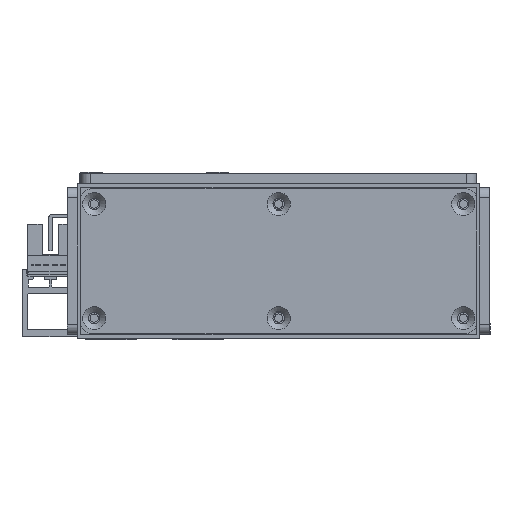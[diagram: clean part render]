
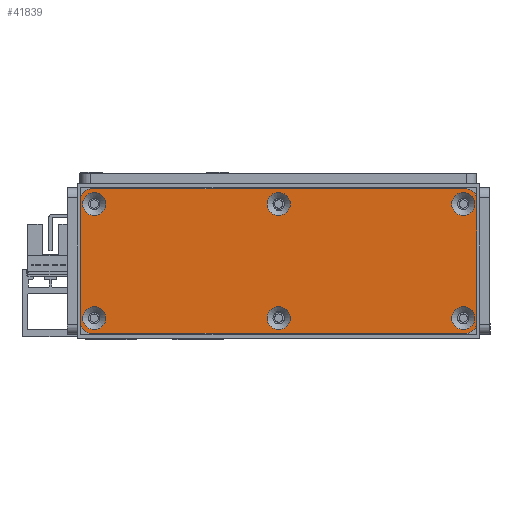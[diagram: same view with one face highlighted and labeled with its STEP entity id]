
A CAD part, front view. The second image highlights one B-rep face of the part: STEP entity #41839.
In plain terms, the highlighted planar face has unit normal (0, -1, 0) as drawn and (0, 0, 1) by its records, which use the part's own axes.
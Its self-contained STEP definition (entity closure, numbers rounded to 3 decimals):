
#699=FACE_BOUND('',#7500,.T.);
#700=FACE_BOUND('',#7501,.T.);
#701=FACE_BOUND('',#7502,.T.);
#702=FACE_BOUND('',#7503,.T.);
#703=FACE_BOUND('',#7504,.T.);
#704=FACE_BOUND('',#7505,.T.);
#2564=PLANE('',#45167);
#5049=FACE_OUTER_BOUND('',#7499,.T.);
#7499=EDGE_LOOP('',(#33724,#33725,#33726,#33727,#33728,#33729,#33730,#33731));
#7500=EDGE_LOOP('',(#33732));
#7501=EDGE_LOOP('',(#33733));
#7502=EDGE_LOOP('',(#33734));
#7503=EDGE_LOOP('',(#33735));
#7504=EDGE_LOOP('',(#33736));
#7505=EDGE_LOOP('',(#33737));
#10318=LINE('',#64175,#14978);
#10322=LINE('',#64187,#14982);
#10326=LINE('',#64199,#14986);
#10330=LINE('',#64209,#14990);
#14978=VECTOR('',#51525,10.);
#14982=VECTOR('',#51537,10.);
#14986=VECTOR('',#51549,10.);
#14990=VECTOR('',#51561,10.);
#18975=CIRCLE('',#45121,3.45);
#18978=CIRCLE('',#45126,3.45);
#18981=CIRCLE('',#45131,3.45);
#18984=CIRCLE('',#45136,3.45);
#18987=CIRCLE('',#45141,3.45);
#18990=CIRCLE('',#45146,3.45);
#18994=CIRCLE('',#45152,3.);
#18996=CIRCLE('',#45156,3.);
#18998=CIRCLE('',#45160,3.);
#19000=CIRCLE('',#45164,3.);
#20771=VERTEX_POINT('',#64103);
#20774=VERTEX_POINT('',#64113);
#20777=VERTEX_POINT('',#64123);
#20780=VERTEX_POINT('',#64133);
#20783=VERTEX_POINT('',#64143);
#20786=VERTEX_POINT('',#64153);
#20791=VERTEX_POINT('',#64166);
#20792=VERTEX_POINT('',#64168);
#20794=VERTEX_POINT('',#64174);
#20796=VERTEX_POINT('',#64180);
#20798=VERTEX_POINT('',#64186);
#20800=VERTEX_POINT('',#64192);
#20802=VERTEX_POINT('',#64198);
#20804=VERTEX_POINT('',#64204);
#25452=EDGE_CURVE('',#20771,#20771,#18975,.T.);
#25457=EDGE_CURVE('',#20774,#20774,#18978,.T.);
#25462=EDGE_CURVE('',#20777,#20777,#18981,.T.);
#25467=EDGE_CURVE('',#20780,#20780,#18984,.T.);
#25472=EDGE_CURVE('',#20783,#20783,#18987,.T.);
#25477=EDGE_CURVE('',#20786,#20786,#18990,.T.);
#25484=EDGE_CURVE('',#20792,#20791,#18994,.T.);
#25487=EDGE_CURVE('',#20794,#20792,#10318,.T.);
#25490=EDGE_CURVE('',#20796,#20794,#18996,.T.);
#25493=EDGE_CURVE('',#20798,#20796,#10322,.T.);
#25496=EDGE_CURVE('',#20800,#20798,#18998,.T.);
#25499=EDGE_CURVE('',#20802,#20800,#10326,.T.);
#25502=EDGE_CURVE('',#20804,#20802,#19000,.T.);
#25505=EDGE_CURVE('',#20791,#20804,#10330,.T.);
#33724=ORIENTED_EDGE('',*,*,#25505,.T.);
#33725=ORIENTED_EDGE('',*,*,#25502,.T.);
#33726=ORIENTED_EDGE('',*,*,#25499,.T.);
#33727=ORIENTED_EDGE('',*,*,#25496,.T.);
#33728=ORIENTED_EDGE('',*,*,#25493,.T.);
#33729=ORIENTED_EDGE('',*,*,#25490,.T.);
#33730=ORIENTED_EDGE('',*,*,#25487,.T.);
#33731=ORIENTED_EDGE('',*,*,#25484,.T.);
#33732=ORIENTED_EDGE('',*,*,#25452,.T.);
#33733=ORIENTED_EDGE('',*,*,#25457,.T.);
#33734=ORIENTED_EDGE('',*,*,#25462,.T.);
#33735=ORIENTED_EDGE('',*,*,#25467,.T.);
#33736=ORIENTED_EDGE('',*,*,#25472,.T.);
#33737=ORIENTED_EDGE('',*,*,#25477,.T.);
#41839=ADVANCED_FACE('',(#5049,#699,#700,#701,#702,#703,#704),#2564,.T.);
#45121=AXIS2_PLACEMENT_3D('',#64104,#51444,#51445);
#45126=AXIS2_PLACEMENT_3D('',#64114,#51456,#51457);
#45131=AXIS2_PLACEMENT_3D('',#64124,#51468,#51469);
#45136=AXIS2_PLACEMENT_3D('',#64134,#51480,#51481);
#45141=AXIS2_PLACEMENT_3D('',#64144,#51492,#51493);
#45146=AXIS2_PLACEMENT_3D('',#64154,#51504,#51505);
#45152=AXIS2_PLACEMENT_3D('',#64169,#51519,#51520);
#45156=AXIS2_PLACEMENT_3D('',#64181,#51531,#51532);
#45160=AXIS2_PLACEMENT_3D('',#64193,#51543,#51544);
#45164=AXIS2_PLACEMENT_3D('',#64205,#51555,#51556);
#45167=AXIS2_PLACEMENT_3D('',#64211,#51564,#51565);
#51444=DIRECTION('center_axis',(0.,0.,-1.));
#51445=DIRECTION('ref_axis',(1.,0.,0.));
#51456=DIRECTION('center_axis',(0.,0.,-1.));
#51457=DIRECTION('ref_axis',(1.,0.,0.));
#51468=DIRECTION('center_axis',(0.,0.,-1.));
#51469=DIRECTION('ref_axis',(1.,0.,0.));
#51480=DIRECTION('center_axis',(0.,0.,-1.));
#51481=DIRECTION('ref_axis',(1.,0.,0.));
#51492=DIRECTION('center_axis',(0.,0.,-1.));
#51493=DIRECTION('ref_axis',(1.,0.,0.));
#51504=DIRECTION('center_axis',(0.,0.,-1.));
#51505=DIRECTION('ref_axis',(1.,0.,0.));
#51519=DIRECTION('center_axis',(0.,0.,1.));
#51520=DIRECTION('ref_axis',(-1.,0.,0.));
#51525=DIRECTION('',(0.,1.,0.));
#51531=DIRECTION('center_axis',(0.,0.,1.));
#51532=DIRECTION('ref_axis',(0.,1.,0.));
#51537=DIRECTION('',(1.,0.,0.));
#51543=DIRECTION('center_axis',(0.,0.,1.));
#51544=DIRECTION('ref_axis',(1.,0.,0.));
#51549=DIRECTION('',(0.,-1.,0.));
#51555=DIRECTION('center_axis',(0.,0.,1.));
#51556=DIRECTION('ref_axis',(0.,-1.,0.));
#51561=DIRECTION('',(-1.,0.,0.));
#51564=DIRECTION('center_axis',(0.,0.,1.));
#51565=DIRECTION('ref_axis',(1.,0.,0.));
#64103=CARTESIAN_POINT('',(110.55,4.5,3.));
#64104=CARTESIAN_POINT('Origin',(114.,4.5,3.));
#64113=CARTESIAN_POINT('',(55.55,38.5,3.));
#64114=CARTESIAN_POINT('Origin',(59.,38.5,3.));
#64123=CARTESIAN_POINT('',(55.55,4.5,3.));
#64124=CARTESIAN_POINT('Origin',(59.,4.5,3.));
#64133=CARTESIAN_POINT('',(0.55,38.5,3.));
#64134=CARTESIAN_POINT('Origin',(4.,38.5,3.));
#64143=CARTESIAN_POINT('',(110.55,38.5,3.));
#64144=CARTESIAN_POINT('Origin',(114.,38.5,3.));
#64153=CARTESIAN_POINT('',(0.55,4.5,3.));
#64154=CARTESIAN_POINT('Origin',(4.,4.5,3.));
#64166=CARTESIAN_POINT('',(115.,43.,3.));
#64168=CARTESIAN_POINT('',(118.,40.,3.));
#64169=CARTESIAN_POINT('Origin',(115.,40.,3.));
#64174=CARTESIAN_POINT('',(118.,3.,3.));
#64175=CARTESIAN_POINT('',(118.,40.,3.));
#64180=CARTESIAN_POINT('',(115.,0.,3.));
#64181=CARTESIAN_POINT('Origin',(115.,3.,3.));
#64186=CARTESIAN_POINT('',(3.,0.,3.));
#64187=CARTESIAN_POINT('',(115.,0.,3.));
#64192=CARTESIAN_POINT('',(0.,3.,3.));
#64193=CARTESIAN_POINT('Origin',(3.,3.,3.));
#64198=CARTESIAN_POINT('',(0.,40.,3.));
#64199=CARTESIAN_POINT('',(0.,3.,3.));
#64204=CARTESIAN_POINT('',(3.,43.,3.));
#64205=CARTESIAN_POINT('Origin',(3.,40.,3.));
#64209=CARTESIAN_POINT('',(3.,43.,3.));
#64211=CARTESIAN_POINT('Origin',(59.,21.5,3.));
